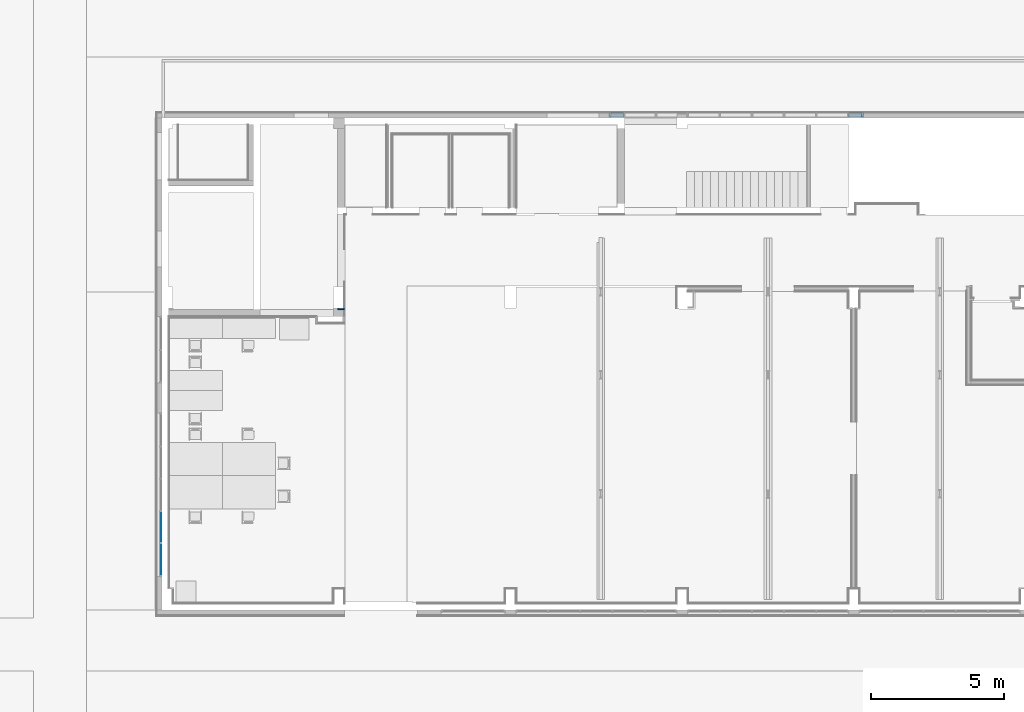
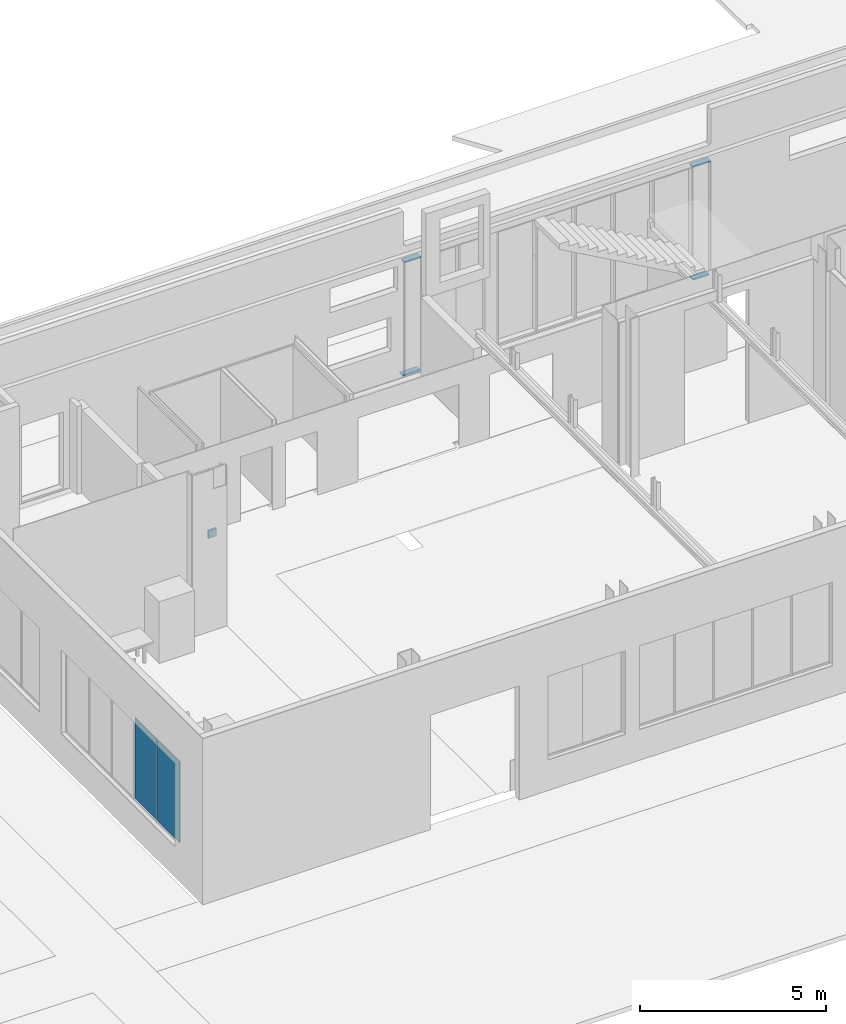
# One storey, part 6 of 27: 4 members, 2 plates, 1 beam, 2 elements without a shape of their own.
"""IFC2X3 building model written with IfcOpenShell, lengths in centimetres."""

from ifc_helpers import new_model, entity, si_unit, converted_unit, derived_unit, direction, frame, frame_2d, origin, origin_2d_with_axis, place, context, subcontext, project, spatial, rectangle, extrude, source, transform, mapped, material, type_object, type_shapes, element, aggregate, save


model = new_model("IFC2X3")

# Units and contexts
model_context = context("Model", 3, precision=0.001, world=origin(), true_north=direction((6.12303176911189e-17, 1.0)))
body_context = subcontext(model_context, "Body", "Model", "MODEL_VIEW")
ifc_project = project(units=[si_unit("LENGTHUNIT", "METRE", prefix="CENTI"), si_unit("AREAUNIT", "SQUARE_METRE"), si_unit("VOLUMEUNIT", "CUBIC_METRE"), converted_unit("PLANEANGLEUNIT", "DEGREE", entity("IfcRatioMeasure", 0.0174532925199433), si_unit("PLANEANGLEUNIT", "RADIAN"), dimensions=[0, 0, 0, 0, 0, 0, 0]), si_unit("MASSUNIT", "GRAM", prefix="KILO"), derived_unit("MASSDENSITYUNIT", [(si_unit("MASSUNIT", "GRAM", prefix="KILO"), 1), (si_unit("LENGTHUNIT", "METRE"), -3)]), derived_unit("MOMENTOFINERTIAUNIT", [(si_unit("LENGTHUNIT", "METRE"), 4)]), si_unit("TIMEUNIT", "SECOND"), si_unit("FREQUENCYUNIT", "HERTZ"), si_unit("THERMODYNAMICTEMPERATUREUNIT", "DEGREE_CELSIUS"), derived_unit("THERMALTRANSMITTANCEUNIT", [(si_unit("MASSUNIT", "GRAM", prefix="KILO"), 1), (si_unit("THERMODYNAMICTEMPERATUREUNIT", "KELVIN"), -1), (si_unit("TIMEUNIT", "SECOND"), -3)]), derived_unit("VOLUMETRICFLOWRATEUNIT", [(si_unit("LENGTHUNIT", "METRE"), 3), (si_unit("TIMEUNIT", "SECOND"), -1)]), si_unit("ELECTRICCURRENTUNIT", "AMPERE"), si_unit("ELECTRICVOLTAGEUNIT", "VOLT"), si_unit("POWERUNIT", "WATT"), si_unit("FORCEUNIT", "NEWTON", prefix="KILO"), si_unit("ILLUMINANCEUNIT", "LUX"), si_unit("LUMINOUSFLUXUNIT", "LUMEN"), si_unit("LUMINOUSINTENSITYUNIT", "CANDELA"), derived_unit("USERDEFINED", [(si_unit("MASSUNIT", "GRAM", prefix="KILO"), -1), (si_unit("LENGTHUNIT", "METRE"), -2), (si_unit("TIMEUNIT", "SECOND"), 3), (si_unit("LUMINOUSFLUXUNIT", "LUMEN"), 1)]), derived_unit("LINEARVELOCITYUNIT", [(si_unit("LENGTHUNIT", "METRE"), 1), (si_unit("TIMEUNIT", "SECOND"), -1)]), si_unit("PRESSUREUNIT", "PASCAL"), derived_unit("USERDEFINED", [(si_unit("LENGTHUNIT", "METRE"), -2), (si_unit("MASSUNIT", "GRAM", prefix="KILO"), 1), (si_unit("TIMEUNIT", "SECOND"), -2)]), derived_unit("LINEARFORCEUNIT", [(si_unit("MASSUNIT", "GRAM", prefix="KILO"), 1), (si_unit("LENGTHUNIT", "METRE"), 1), (si_unit("TIMEUNIT", "SECOND"), -2), (si_unit("LENGTHUNIT", "METRE"), -1)]), derived_unit("PLANARFORCEUNIT", [(si_unit("MASSUNIT", "GRAM", prefix="KILO"), 1), (si_unit("LENGTHUNIT", "METRE"), 1), (si_unit("TIMEUNIT", "SECOND"), -2), (si_unit("LENGTHUNIT", "METRE"), -2)])], contexts=[model_context])

# Site, building, storey
site_placement = place(None, origin())
site = spatial("IfcSite", under=ifc_project, at=site_placement, Name="Default", CompositionType="ELEMENT")
building_placement = place(site_placement, origin())
building = spatial("IfcBuilding", under=site, at=building_placement, CompositionType="ELEMENT")
storey_placement = place(building_placement, origin())
storey = spatial("IfcBuildingStorey", under=building, at=storey_placement, Name="Poziom 0 A +/-0,00", CompositionType="ELEMENT", Elevation=3.38570427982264e-11)

# Beam
ifc_material_1 = material(Name="_Beton C30/37")
beam_type = type_object("IfcBeamType", Name="Beton-belka prostokątna:wieniec 25x25", PredefinedType="BEAM", material=ifc_material_1)
beam_placement = place(storey_placement, frame((-2261.76510661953, 1390.12745208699, 265.0), z_axis=(0.0, 0.0, 1.0), x_axis=(0.0, -1.0, 0.0)))
element("IfcBeam", 1, at=beam_placement, inside=storey, type_object=beam_type, material=ifc_material_1, Name="Beton-belka prostokątna:wieniec 25x25", ObjectType="Beton-belka prostokątna:wieniec 25x25", context=body_context, shape_type="SweptSolid", body=[
    extrude(rectangle(XDim=25.0, YDim=25.0000000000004, at=frame_2d((-2.75335310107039e-14, 0.0), x_axis=(1.0, 0.0))), frame((0.0, 0.0, 12.4999999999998), z_axis=(1.0, 0.0, 0.0), x_axis=(0.0, 0.0, -1.0)), (0.0, 0.0, 1.0), 6.00000000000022),
])

# Curtain wall, members
curtain_wall_type_1 = type_object("IfcCurtainWallType", PredefinedType="NOTDEFINED")
curtain_wall_1_placement = place(storey_placement, origin())
curtain_wall_1 = element("IfcCurtainWall", 2, at=curtain_wall_1_placement, inside=storey, type_object=curtain_wall_type_1)
ifc_material_2 = material(Name="Aluminium")
member_type_1 = type_object("IfcMemberType", Name="Prostokątny szpros:50 x 175mm", PredefinedType="MULLION", material=ifc_material_2)
shared_shape_1 = source(origin(), body_context, "Body", "SweptSolid", [
    extrude(rectangle(XDim=17.5, YDim=5.0, at=origin_2d_with_axis()), frame((-2.5, 0.0, -56.0), z_axis=(0.0, 0.0, 1.0), x_axis=(0.0, -1.0, 0.0)), (0.0, 0.0, 1.0), 56.0),
])
type_shapes(member_type_1, [shared_shape_1])
member_1_placement = place(curtain_wall_1_placement, frame((-298.265132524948, 2116.37745208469, 375.0), z_axis=(1.0, 0.0, 0.0), x_axis=(0.0, 0.0, 1.0)))
member_1 = element("IfcMember", 3, at=member_1_placement, type_object=member_type_1, Name="Prostokątny szpros:50 x 175mm", ObjectType="Prostokątny szpros:50 x 175mm", context=body_context, shape_type="MappedRepresentation", body=[
    mapped(shared_shape_1, transform((0.0, 0.0, 0.0), scale=1.0)),
])
member_type_2 = type_object("IfcMemberType", Name="Prostokątny szpros:50 x 175mm", PredefinedType="MULLION", material=ifc_material_2)
shared_shape_2 = source(origin(), body_context, "Body", "SweptSolid", [
    extrude(rectangle(XDim=17.5, YDim=5.0, at=origin_2d_with_axis()), frame((-2.5, 0.0, -53.5000000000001), z_axis=(0.0, 0.0, 1.0), x_axis=(0.0, -1.0, 0.0)), (0.0, 0.0, 1.0), 53.5000000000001),
])
type_shapes(member_type_2, [shared_shape_2])
member_2_placement = place(curtain_wall_1_placement, frame((-1252.7651152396, 2116.37745208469, 0.0), z_axis=(-1.0, 0.0, 0.0), x_axis=(0.0, 0.0, -1.0)))
member_2 = element("IfcMember", 4, at=member_2_placement, type_object=member_type_2, Name="Prostokątny szpros:50 x 175mm", ObjectType="Prostokątny szpros:50 x 175mm", context=body_context, shape_type="MappedRepresentation", body=[
    mapped(shared_shape_2, transform((0.0, 0.0, 0.0), scale=1.0)),
])
member_type_3 = type_object("IfcMemberType", Name="Prostokątny szpros:50 x 175mm", PredefinedType="MULLION", material=ifc_material_2)
shared_shape_3 = source(origin(), body_context, "Body", "SweptSolid", [
    extrude(rectangle(XDim=17.5, YDim=5.0, at=origin_2d_with_axis()), frame((-2.5, 0.0, -48.5000000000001), z_axis=(0.0, 0.0, 1.0), x_axis=(0.0, -1.0, 0.0)), (0.0, 0.0, 1.0), 48.5000000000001),
])
type_shapes(member_type_3, [shared_shape_3])
member_3_placement = place(curtain_wall_1_placement, frame((-351.765132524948, 2116.37745208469, 0.0), z_axis=(-1.0, 0.0, 0.0), x_axis=(0.0, 0.0, -1.0)))
member_3 = element("IfcMember", 5, at=member_3_placement, type_object=member_type_3, Name="Prostokątny szpros:50 x 175mm", ObjectType="Prostokątny szpros:50 x 175mm", context=body_context, shape_type="MappedRepresentation", body=[
    mapped(shared_shape_3, transform((0.0, 0.0, 0.0), scale=1.0)),
])
member_type_4 = type_object("IfcMemberType", Name="Prostokątny szpros:50 x 175mm", PredefinedType="MULLION", material=ifc_material_2)
shared_shape_4 = source(origin(), body_context, "Body", "SweptSolid", [
    extrude(rectangle(XDim=17.5, YDim=5.0, at=origin_2d_with_axis()), frame((-2.5, 0.0, -51.0), z_axis=(0.0, 0.0, 1.0), x_axis=(0.0, -1.0, 0.0)), (0.0, 0.0, 1.0), 51.0000000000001),
])
type_shapes(member_type_4, [shared_shape_4])
member_4_placement = place(curtain_wall_1_placement, frame((-1196.7651152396, 2116.37745208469, 375.0), z_axis=(1.0, 0.0, 0.0), x_axis=(0.0, 0.0, 1.0)))
member_4 = element("IfcMember", 6, at=member_4_placement, type_object=member_type_4, Name="Prostokątny szpros:50 x 175mm", ObjectType="Prostokątny szpros:50 x 175mm", context=body_context, shape_type="MappedRepresentation", body=[
    mapped(shared_shape_4, transform((0.0, 0.0, 0.0), scale=1.0)),
])
aggregate(curtain_wall_1, [member_1, member_2, member_3, member_4])

# Curtain wall, plates
curtain_wall_type_2 = type_object("IfcCurtainWallType", PredefinedType="NOTDEFINED")
curtain_wall_2_placement = place(storey_placement, origin())
curtain_wall_2 = element("IfcCurtainWall", 7, at=curtain_wall_2_placement, inside=storey, type_object=curtain_wall_type_2)
ifc_material_3 = material(Name="Szkło")
plate_type_1 = type_object("IfcPlateType", Name="Panel systemowy:Przeszklony", PredefinedType="CURTAIN_PANEL", material=ifc_material_3)
shared_shape_5 = source(origin(), body_context, "Body", "SweptSolid", [
    extrude(rectangle(XDim=2.5, YDim=118.500173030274, at=origin_2d_with_axis()), frame((0.0, 0.0, 0.0), z_axis=(0.0, 0.0, 1.0), x_axis=(0.0, 1.0, 0.0)), (0.0, 0.0, 1.0), 264.999999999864),
])
type_shapes(plate_type_1, [shared_shape_5])
plate_1_placement = place(curtain_wall_2_placement, frame((-2938.26510381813, 445.37753885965, 105.0), z_axis=(0.0, 0.0, 1.0), x_axis=(0.0, 1.0, 0.0)))
plate_1 = element("IfcPlate", 8, at=plate_1_placement, type_object=plate_type_1, material=ifc_material_3, Name="Panel systemowy:Przeszklony", ObjectType="Panel systemowy:Przeszklony", context=body_context, shape_type="MappedRepresentation", body=[
    mapped(shared_shape_5, transform((0.0, 0.0, 0.0), scale=1.0)),
])
plate_type_2 = type_object("IfcPlateType", Name="Panel systemowy:Przeszklony", PredefinedType="CURTAIN_PANEL", material=ifc_material_3)
shared_shape_6 = source(origin(), body_context, "Body", "SweptSolid", [
    extrude(rectangle(XDim=2.5, YDim=116.000000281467, at=origin_2d_with_axis()), frame((0.0, 0.0, 0.0), z_axis=(0.0, 0.0, 1.0), x_axis=(0.0, 1.0, 0.0)), (0.0, 0.0, 1.0), 264.999999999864),
])
type_shapes(plate_type_2, [shared_shape_6])
plate_2_placement = place(curtain_wall_2_placement, frame((-2938.26510381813, 567.62762551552, 105.0), z_axis=(0.0, 0.0, 1.0), x_axis=(0.0, 1.0, 0.0)))
plate_2 = element("IfcPlate", 9, at=plate_2_placement, type_object=plate_type_2, material=ifc_material_3, Name="Panel systemowy:Przeszklony", ObjectType="Panel systemowy:Przeszklony", context=body_context, shape_type="MappedRepresentation", body=[
    mapped(shared_shape_6, transform((0.0, 0.0, 0.0), scale=1.0)),
])
aggregate(curtain_wall_2, [plate_1, plate_2])

save(model, "model.ifc")
